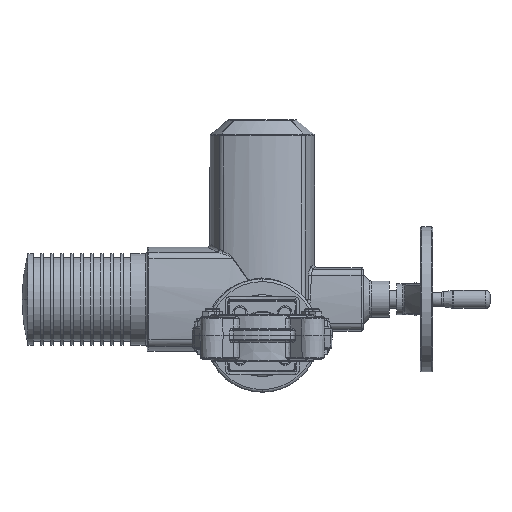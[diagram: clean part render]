
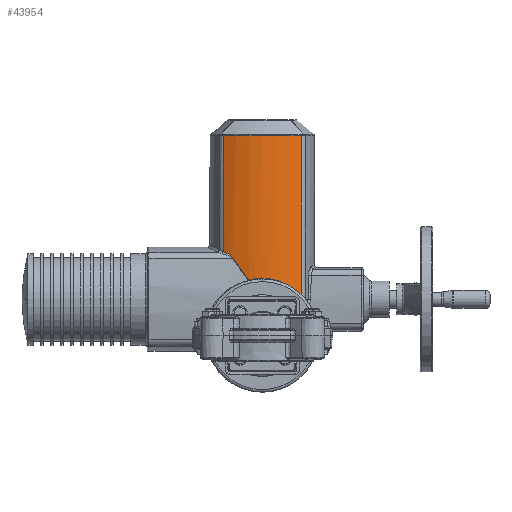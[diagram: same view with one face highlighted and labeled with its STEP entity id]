
A CAD part, front view. The second image highlights one B-rep face of the part: STEP entity #43954.
In plain terms, the highlighted cylindrical face has radius 100 mm (diameter 200 mm), a partial arc.
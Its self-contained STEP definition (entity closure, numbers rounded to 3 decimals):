
#813 = B_SPLINE_CURVE_WITH_KNOTS ( 'NONE', 3,
 ( #114089, #16165, #123894, #65586 ),
 .UNSPECIFIED., .F., .F.,
 ( 4, 4 ),
 ( 0.008, 0.009 ),
 .UNSPECIFIED. ) ;
#1686 = CARTESIAN_POINT ( 'NONE',  ( -14.967, 358.126, 60.881 ) ) ;
#2788 = CARTESIAN_POINT ( 'NONE',  ( 8.354, 357.343, 62.546 ) ) ;
#3215 = CARTESIAN_POINT ( 'NONE',  ( 33.093, 362.616, 50.604 ) ) ;
#3510 = ORIENTED_EDGE ( 'NONE', *, *, #28142, .T. ) ;
#3892 = ORIENTED_EDGE ( 'NONE', *, *, #39785, .T. ) ;
#6690 = CARTESIAN_POINT ( 'NONE',  ( -35.292, 363.43, 88.385 ) ) ;
#12576 = CARTESIAN_POINT ( 'NONE',  ( 11.825, 357.695, 61.802 ) ) ;
#12990 = CARTESIAN_POINT ( 'NONE',  ( 36.396, 363.858, 47.439 ) ) ;
#13406 = B_SPLINE_CURVE_WITH_KNOTS ( 'NONE', 3,
 ( #106800, #19092, #77510, #48552, #116609, #58320, #126427, #68106 ),
 .UNSPECIFIED., .F., .F.,
 ( 4, 2, 2, 4 ),
 ( 0., 0.002, 0.003, 0.007 ),
 .UNSPECIFIED. ) ;
#16165 = CARTESIAN_POINT ( 'NONE',  ( 36.862, 364.041, 47.327 ) ) ;
#16455 = CARTESIAN_POINT ( 'NONE',  ( -33.565, 362.8, 86.957 ) ) ;
#17444 = DIRECTION ( 'NONE',  ( 0., 0., -1. ) ) ;
#19092 = CARTESIAN_POINT ( 'NONE',  ( 38.283, 364.617, 46.974 ) ) ;
#19179 = EDGE_CURVE ( 'NONE', #36592, #36277, #97612, .T. ) ;
#19481 = LINE ( 'NONE', #125542, #31752 ) ;
#20217 = VERTEX_POINT ( 'NONE', #109202 ) ;
#20375 = CYLINDRICAL_SURFACE ( 'NONE', #117561, 100. ) ;
#21903 = CARTESIAN_POINT ( 'NONE',  ( -12.724, 357.787, 61.609 ) ) ;
#22324 = CARTESIAN_POINT ( 'NONE',  ( 17.386, 358.499, 60.082 ) ) ;
#24413 = B_SPLINE_CURVE_WITH_KNOTS ( 'NONE', 3,
 ( #80303, #21903, #90106, #31738, #99873, #41566, #109604, #51354, #119403, #61099, #2788, #70906, #12576, #80735, #22324, #90518, #32167, #100306, #41970, #110010, #51791, #119832, #61516, #3215, #71341, #12990 ),
 .UNSPECIFIED., .F., .F.,
 ( 4, 2, 2, 2, 2, 2, 2, 2, 2, 2, 2, 2, 4 ),
 ( 0., 0.007, 0.011, 0.014, 0.021, 0.025, 0.028, 0.035, 0.039, 0.041, 0.042, 0.05, 0.057 ),
 .UNSPECIFIED. ) ;
#25414 = B_SPLINE_CURVE_WITH_KNOTS ( 'NONE', 3,
 ( #35662, #45060, #113513, #55237, #123338, #65038, #6690, #74820, #16455, #84616, #26264, #94406 ),
 .UNSPECIFIED., .F., .F.,
 ( 4, 2, 2, 2, 2, 4 ),
 ( 0., 0.003, 0.007, 0.01, 0.012, 0.014 ),
 .UNSPECIFIED. ) ;
#26264 = CARTESIAN_POINT ( 'NONE',  ( -32.398, 362.393, 85.723 ) ) ;
#28142 = EDGE_CURVE ( 'NONE', #124588, #36277, #13406, .T. ) ;
#28626 = VERTEX_POINT ( 'NONE', #36901 ) ;
#30662 = CARTESIAN_POINT ( 'NONE',  ( -26.44, 360.376, 77.158 ) ) ;
#31738 = CARTESIAN_POINT ( 'NONE',  ( -6.964, 357.236, 62.77 ) ) ;
#31752 = VECTOR ( 'NONE', #76198, 1000. ) ;
#31987 = DIRECTION ( 'NONE',  ( 0., 0., -1. ) ) ;
#32167 = CARTESIAN_POINT ( 'NONE',  ( 21.604, 359.356, 58.202 ) ) ;
#35129 = AXIS2_PLACEMENT_3D ( 'NONE', #90360, #31987, #100133 ) ;
#35662 = CARTESIAN_POINT ( 'NONE',  ( -43.041, 366.737, 92.391 ) ) ;
#35711 = FACE_OUTER_BOUND ( 'NONE', #49506, .T. ) ;
#35933 = ORIENTED_EDGE ( 'NONE', *, *, #116858, .T. ) ;
#36277 = VERTEX_POINT ( 'NONE', #104183 ) ;
#36592 = VERTEX_POINT ( 'NONE', #101201 ) ;
#36901 = CARTESIAN_POINT ( 'NONE',  ( -14.967, 358.126, 60.881 ) ) ;
#38398 = CARTESIAN_POINT ( 'NONE',  ( 37.791, 364.416, 47.097 ) ) ;
#39785 = EDGE_CURVE ( 'NONE', #20217, #68824, #25414, .T. ) ;
#41566 = CARTESIAN_POINT ( 'NONE',  ( -3.436, 357.052, 63.155 ) ) ;
#41970 = CARTESIAN_POINT ( 'NONE',  ( 23.652, 359.836, 57.129 ) ) ;
#42053 = EDGE_CURVE ( 'NONE', #36592, #64191, #107848, .T. ) ;
#43954 = ADVANCED_FACE ( 'NONE', ( #35711 ), #20375, .T. ) ;
#44918 = ORIENTED_EDGE ( 'NONE', *, *, #52667, .T. ) ;
#45060 = CARTESIAN_POINT ( 'NONE',  ( -42.042, 366.26, 92.005 ) ) ;
#48115 = DIRECTION ( 'NONE',  ( 0., 0., -1. ) ) ;
#48552 = CARTESIAN_POINT ( 'NONE',  ( 39.706, 365.219, 46.448 ) ) ;
#49506 = EDGE_LOOP ( 'NONE', ( #35933, #3892, #105168, #44918, #109316, #3510, #98814, #103256 ) ) ;
#51354 = CARTESIAN_POINT ( 'NONE',  ( 1.316, 356.981, 63.304 ) ) ;
#51791 = CARTESIAN_POINT ( 'NONE',  ( 25.164, 360.217, 56.268 ) ) ;
#52667 = EDGE_CURVE ( 'NONE', #28626, #75925, #24413, .T. ) ;
#55237 = CARTESIAN_POINT ( 'NONE',  ( -39.094, 364.952, 90.65 ) ) ;
#58320 = CARTESIAN_POINT ( 'NONE',  ( 41.482, 366.005, 45.502 ) ) ;
#59998 = CARTESIAN_POINT ( 'NONE',  ( -20.733, 358.999, 69.042 ) ) ;
#61099 = CARTESIAN_POINT ( 'NONE',  ( 7.186, 357.252, 62.737 ) ) ;
#61516 = CARTESIAN_POINT ( 'NONE',  ( 29.519, 361.438, 53.45 ) ) ;
#64191 = VERTEX_POINT ( 'NONE', #94092 ) ;
#65038 = CARTESIAN_POINT ( 'NONE',  ( -36.228, 363.787, 89.011 ) ) ;
#65586 = CARTESIAN_POINT ( 'NONE',  ( 37.791, 364.416, 47.097 ) ) ;
#67265 = CARTESIAN_POINT ( 'NONE',  ( 0., 457., 237.75 ) ) ;
#68106 = CARTESIAN_POINT ( 'NONE',  ( 43.041, 366.737, 44.194 ) ) ;
#68824 = VERTEX_POINT ( 'NONE', #103938 ) ;
#70906 = CARTESIAN_POINT ( 'NONE',  ( 10.68, 357.565, 62.077 ) ) ;
#71341 = CARTESIAN_POINT ( 'NONE',  ( 34.788, 363.23, 49.074 ) ) ;
#71723 = VECTOR ( 'NONE', #17444, 1000. ) ;
#74820 = CARTESIAN_POINT ( 'NONE',  ( -33.985, 362.951, 87.329 ) ) ;
#75925 = VERTEX_POINT ( 'NONE', #98019 ) ;
#76198 = DIRECTION ( 'NONE',  ( 0., 0., -1. ) ) ;
#77510 = CARTESIAN_POINT ( 'NONE',  ( 38.764, 364.818, 46.82 ) ) ;
#80303 = CARTESIAN_POINT ( 'NONE',  ( -14.967, 358.126, 60.881 ) ) ;
#80735 = CARTESIAN_POINT ( 'NONE',  ( 15.204, 358.137, 60.862 ) ) ;
#84616 = CARTESIAN_POINT ( 'NONE',  ( -32.772, 362.521, 86.153 ) ) ;
#87312 = DIRECTION ( 'NONE',  ( -1., 0., 0. ) ) ;
#90106 = CARTESIAN_POINT ( 'NONE',  ( -10.443, 357.52, 62.174 ) ) ;
#90360 = CARTESIAN_POINT ( 'NONE',  ( 0., 457., 220.035 ) ) ;
#90518 = CARTESIAN_POINT ( 'NONE',  ( 20.562, 359.131, 58.699 ) ) ;
#94092 = CARTESIAN_POINT ( 'NONE',  ( -43.041, 366.737, 220.035 ) ) ;
#94406 = CARTESIAN_POINT ( 'NONE',  ( -32.064, 362.28, 85.242 ) ) ;
#94464 = EDGE_CURVE ( 'NONE', #75925, #124588, #813, .T. ) ;
#97612 = LINE ( 'NONE', #115396, #71723 ) ;
#98019 = CARTESIAN_POINT ( 'NONE',  ( 36.396, 363.858, 47.439 ) ) ;
#98800 = CARTESIAN_POINT ( 'NONE',  ( -32.064, 362.28, 85.242 ) ) ;
#98814 = ORIENTED_EDGE ( 'NONE', *, *, #19179, .F. ) ;
#99873 = CARTESIAN_POINT ( 'NONE',  ( -5.794, 357.161, 62.927 ) ) ;
#100133 = DIRECTION ( 'NONE',  ( 1., 0., 0. ) ) ;
#100306 = CARTESIAN_POINT ( 'NONE',  ( 23.143, 359.713, 57.404 ) ) ;
#101201 = CARTESIAN_POINT ( 'NONE',  ( 43.041, 366.737, 220.035 ) ) ;
#103256 = ORIENTED_EDGE ( 'NONE', *, *, #42053, .T. ) ;
#103938 = CARTESIAN_POINT ( 'NONE',  ( -32.064, 362.28, 85.242 ) ) ;
#104183 = CARTESIAN_POINT ( 'NONE',  ( 43.041, 366.737, 44.194 ) ) ;
#105168 = ORIENTED_EDGE ( 'NONE', *, *, #124684, .T. ) ;
#106254 = B_SPLINE_CURVE_WITH_KNOTS ( 'NONE', 3,
 ( #98800, #30662, #59998, #1686 ),
 .UNSPECIFIED., .F., .F.,
 ( 4, 4 ),
 ( 0., 0.03 ),
 .UNSPECIFIED. ) ;
#106800 = CARTESIAN_POINT ( 'NONE',  ( 37.791, 364.416, 47.097 ) ) ;
#107848 = CIRCLE ( 'NONE', #35129, 100. ) ;
#109202 = CARTESIAN_POINT ( 'NONE',  ( -43.041, 366.737, 92.391 ) ) ;
#109316 = ORIENTED_EDGE ( 'NONE', *, *, #94464, .T. ) ;
#109604 = CARTESIAN_POINT ( 'NONE',  ( -2.243, 357.018, 63.226 ) ) ;
#110010 = CARTESIAN_POINT ( 'NONE',  ( 24.662, 360.087, 56.561 ) ) ;
#113513 = CARTESIAN_POINT ( 'NONE',  ( -41.052, 365.808, 91.582 ) ) ;
#114089 = CARTESIAN_POINT ( 'NONE',  ( 36.396, 363.858, 47.439 ) ) ;
#115396 = CARTESIAN_POINT ( 'NONE',  ( 43.041, 366.737, 237.75 ) ) ;
#116609 = CARTESIAN_POINT ( 'NONE',  ( 40.164, 365.419, 46.232 ) ) ;
#116858 = EDGE_CURVE ( 'NONE', #64191, #20217, #19481, .T. ) ;
#117561 = AXIS2_PLACEMENT_3D ( 'NONE', #67265, #48115, #87312 ) ;
#119403 = CARTESIAN_POINT ( 'NONE',  ( 3.673, 357.04, 63.181 ) ) ;
#119832 = CARTESIAN_POINT ( 'NONE',  ( 27.641, 360.874, 54.766 ) ) ;
#123338 = CARTESIAN_POINT ( 'NONE',  ( -38.126, 364.548, 90.142 ) ) ;
#123894 = CARTESIAN_POINT ( 'NONE',  ( 37.328, 364.227, 47.213 ) ) ;
#124588 = VERTEX_POINT ( 'NONE', #38398 ) ;
#124684 = EDGE_CURVE ( 'NONE', #68824, #28626, #106254, .T. ) ;
#125542 = CARTESIAN_POINT ( 'NONE',  ( -43.041, 366.737, 237.75 ) ) ;
#126427 = CARTESIAN_POINT ( 'NONE',  ( 42.296, 366.381, 44.907 ) ) ;
